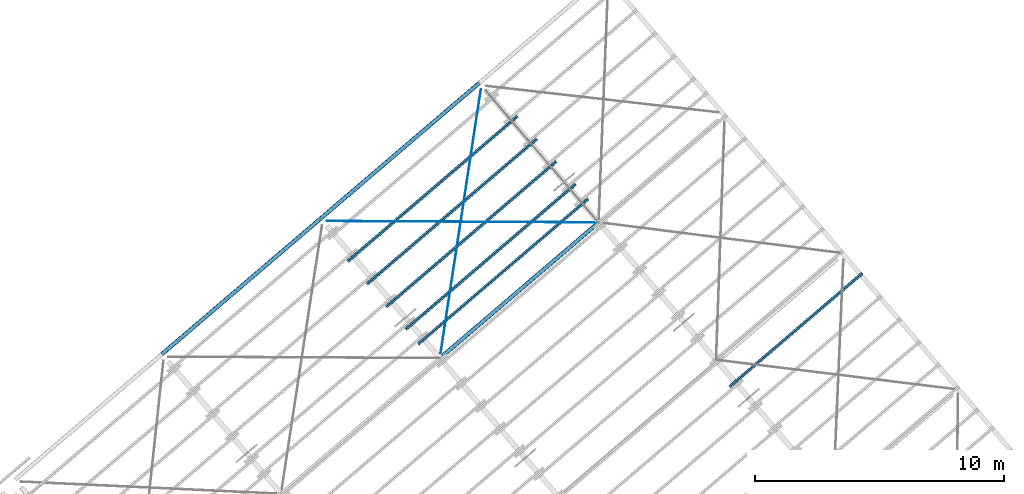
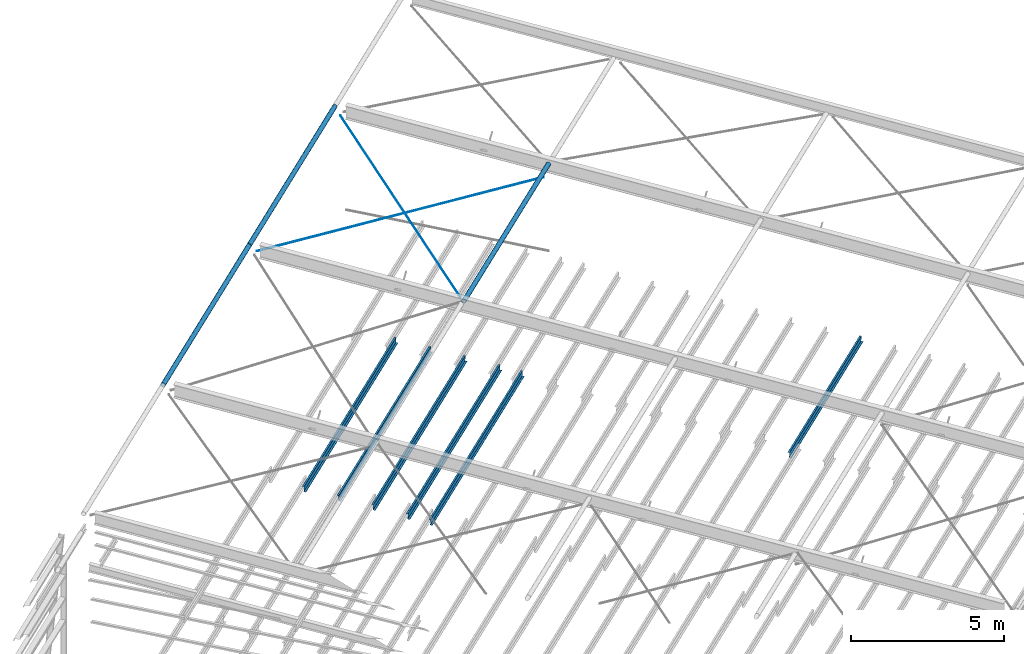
# One storey, part 18 of 25: 11 beams, 3 elements without a shape of their own.
"""IFC2X3 building model written with IfcOpenShell, lengths in millimetres."""

from ifc_helpers import new_model, entity, si_unit, converted_unit, derived_unit, direction, frame, frame_2d, origin, origin_2d_with_axis, place, context, subcontext, project, spatial, polyline, circle_curve, parameter, trimmed, segment, composite_curve, circle, hollow_circle, outline, extrude, material, type_object, element, aggregate, save


model = new_model("IFC2X3")

# Units and contexts
model_context = context("Model", 3, precision=0.01, world=origin(), true_north=direction((6.123031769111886e-17, 1.0)))
body_context = subcontext(model_context, "Body", "Model", "MODEL_VIEW")
ifc_project = project(units=[si_unit("LENGTHUNIT", "METRE", prefix="MILLI"), si_unit("AREAUNIT", "SQUARE_METRE"), si_unit("VOLUMEUNIT", "CUBIC_METRE"), converted_unit("PLANEANGLEUNIT", "DEGREE", entity("IfcRatioMeasure", 0.017453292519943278), si_unit("PLANEANGLEUNIT", "RADIAN"), dimensions=[0, 0, 0, 0, 0, 0, 0]), si_unit("MASSUNIT", "GRAM", prefix="KILO"), derived_unit("MASSDENSITYUNIT", [(si_unit("MASSUNIT", "GRAM", prefix="KILO"), 1), (si_unit("LENGTHUNIT", "METRE"), -3)]), derived_unit("MOMENTOFINERTIAUNIT", [(si_unit("LENGTHUNIT", "METRE"), 4)]), si_unit("TIMEUNIT", "SECOND"), si_unit("FREQUENCYUNIT", "HERTZ"), si_unit("THERMODYNAMICTEMPERATUREUNIT", "DEGREE_CELSIUS"), derived_unit("THERMALTRANSMITTANCEUNIT", [(si_unit("MASSUNIT", "GRAM", prefix="KILO"), 1), (si_unit("THERMODYNAMICTEMPERATUREUNIT", "KELVIN"), -1), (si_unit("TIMEUNIT", "SECOND"), -3)]), derived_unit("VOLUMETRICFLOWRATEUNIT", [(si_unit("LENGTHUNIT", "METRE"), 3), (si_unit("TIMEUNIT", "SECOND"), -1)]), derived_unit("MASSFLOWRATEUNIT", [(si_unit("MASSUNIT", "GRAM", prefix="KILO"), 1), (si_unit("TIMEUNIT", "SECOND"), -1)]), derived_unit("ROTATIONALFREQUENCYUNIT", [(si_unit("TIMEUNIT", "SECOND"), -1)]), si_unit("ELECTRICCURRENTUNIT", "AMPERE"), si_unit("ELECTRICVOLTAGEUNIT", "VOLT"), si_unit("POWERUNIT", "WATT"), si_unit("FORCEUNIT", "NEWTON", prefix="KILO"), si_unit("ILLUMINANCEUNIT", "LUX"), si_unit("LUMINOUSFLUXUNIT", "LUMEN"), si_unit("LUMINOUSINTENSITYUNIT", "CANDELA"), derived_unit("USERDEFINED", [(si_unit("MASSUNIT", "GRAM", prefix="KILO"), -1), (si_unit("LENGTHUNIT", "METRE"), -2), (si_unit("TIMEUNIT", "SECOND"), 3), (si_unit("LUMINOUSFLUXUNIT", "LUMEN"), 1)]), derived_unit("SOUNDPOWERUNIT", [(si_unit("MASSUNIT", "GRAM", prefix="KILO"), 1), (si_unit("LENGTHUNIT", "METRE"), 2), (si_unit("TIMEUNIT", "SECOND"), -3)]), derived_unit("LINEARVELOCITYUNIT", [(si_unit("LENGTHUNIT", "METRE"), 1), (si_unit("TIMEUNIT", "SECOND"), -1)]), si_unit("PRESSUREUNIT", "PASCAL"), derived_unit("USERDEFINED", [(si_unit("LENGTHUNIT", "METRE"), -2), (si_unit("MASSUNIT", "GRAM", prefix="KILO"), 1), (si_unit("TIMEUNIT", "SECOND"), -2)]), derived_unit("LINEARFORCEUNIT", [(si_unit("MASSUNIT", "GRAM", prefix="KILO"), 1), (si_unit("LENGTHUNIT", "METRE"), 1), (si_unit("TIMEUNIT", "SECOND"), -2), (si_unit("LENGTHUNIT", "METRE"), -1)]), derived_unit("PLANARFORCEUNIT", [(si_unit("MASSUNIT", "GRAM", prefix="KILO"), 1), (si_unit("LENGTHUNIT", "METRE"), 1), (si_unit("TIMEUNIT", "SECOND"), -2), (si_unit("LENGTHUNIT", "METRE"), -2)])], contexts=[model_context])

# Site, building, storey
site_placement = place(None, frame((962.4174930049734, -6014.433753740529, 0.0), z_axis=(0.0, 0.0, 1.0), x_axis=(0.7601792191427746, 0.649713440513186, 0.0)))
site = spatial("IfcSite", under=ifc_project, at=site_placement, Name="Default", CompositionType="ELEMENT")
building_placement = place(site_placement, origin())
building = spatial("IfcBuilding", under=site, at=building_placement, CompositionType="ELEMENT")
storey_placement = place(building_placement, frame((0.0, 0.0, 9200.0)))
storey = spatial("IfcBuildingStorey", under=building, at=storey_placement, Name="TOP OF CEILING", CompositionType="ELEMENT", Elevation=9200.000000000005)

# Beams
ifc_material_1 = material(Name="Metal - Steel - 300 MPa")
beam_type_1 = type_object("IfcBeamType", Name="ADSK_AU_CHS-Circular Hollow Sections (AS 1163_C350):168.3x6.4CHS", PredefinedType="NOTDEFINED")
beam_1_placement = place(storey_placement, frame((162338.96020471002, 3518.471917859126, 4100.295329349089)))
element("IfcBeam", 1, at=beam_1_placement, inside=storey, type_object=beam_type_1, material=ifc_material_1, Name="ADSK_AU_CHS-Circular Hollow Sections (AS 1163_C350):168.3x6.4CHS", ObjectType="ADSK_AU_CHS-Circular Hollow Sections (AS 1163_C350):168.3x6.4CHS", context=body_context, shape_type="SweptSolid", body=[
    extrude(hollow_circle(Radius=84.15000000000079, WallThickness=6.4000000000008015, at=origin_2d_with_axis()), frame((5.100000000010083, 0.0, -84.15000000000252), z_axis=(1.0, 0.0, 0.0), x_axis=(0.0, 1.0, 0.0)), (0.0, 0.0, 1.0), 8389.799999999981),
])
beam_2_placement = place(storey_placement, frame((170738.96020471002, 3518.4719178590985, 4100.295329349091)))
element("IfcBeam", 2, at=beam_2_placement, inside=storey, type_object=beam_type_1, material=ifc_material_1, Name="ADSK_AU_CHS-Circular Hollow Sections (AS 1163_C350):168.3x6.4CHS", ObjectType="ADSK_AU_CHS-Circular Hollow Sections (AS 1163_C350):168.3x6.4CHS", context=body_context, shape_type="SweptSolid", body=[
    extrude(hollow_circle(Radius=84.15000000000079, WallThickness=6.4000000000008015, at=origin_2d_with_axis()), frame((5.10000000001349, 0.0, -84.15000000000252), z_axis=(1.0, 0.0, 0.0), x_axis=(0.0, 1.0, 0.0)), (0.0, 0.0, 1.0), 8389.799999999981),
])
beam_3_placement = place(storey_placement, frame((179138.96020471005, -3867.590582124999, 3533.8115259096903), z_axis=(0.0, 0.0, 1.0), x_axis=(-1.0, 0.0, 0.0)))
element("IfcBeam", 3, at=beam_3_placement, inside=storey, type_object=beam_type_1, material=ifc_material_1, Name="ADSK_AU_CHS-Circular Hollow Sections (AS 1163_C350):168.3x6.4CHS", ObjectType="ADSK_AU_CHS-Circular Hollow Sections (AS 1163_C350):168.3x6.4CHS", context=body_context, shape_type="SweptSolid", body=[
    extrude(hollow_circle(Radius=84.15000000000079, WallThickness=6.4000000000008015, at=origin_2d_with_axis()), frame((0.0, 0.0, -84.15000000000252), z_axis=(1.0, 0.0, 0.0), x_axis=(0.0, 1.0, 0.0)), (0.0, 0.0, 1.0), 8270.5),
])
beam_type_2 = type_object("IfcBeamType", Name="ADSK_AU_Round Bars (AS 3679_1):24ROD", PredefinedType="NOTDEFINED")
beam_4_placement = place(storey_placement, frame((170738.96020471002, 3384.0219178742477, 3800.0), z_axis=(0.055353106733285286, -0.04778562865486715, 0.9973226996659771), x_axis=(0.7549271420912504, -0.6517189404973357, -0.07312614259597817)))
element("IfcBeam", 4, at=beam_4_placement, inside=storey, type_object=beam_type_2, Name="ADSK_AU_Round Bars (AS 3679_1):24ROD", ObjectType="ADSK_AU_Round Bars (AS 3679_1):24ROD", context=body_context, shape_type="SweptSolid", body=[
    extrude(circle(Radius=12.000000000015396, at=frame_2d((-8.196803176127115e-13, -2.154761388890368e-11), x_axis=(1.0, 0.0))), frame((163.29999999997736, 0.0, -12.0), z_axis=(1.0, 0.0, 0.0), x_axis=(0.0, -1.0, 0.0)), (0.0, 0.0, 1.0), 10776.70000000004),
])
beam_5_placement = place(storey_placement, frame((179138.96020471, 3384.021917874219, 3800.0), z_axis=(-0.014744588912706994, -0.012728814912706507, 0.9998102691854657), x_axis=(-0.756810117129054, -0.6533444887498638, -0.01947885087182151)))
element("IfcBeam", 5, at=beam_5_placement, inside=storey, type_object=beam_type_2, Name="ADSK_AU_Round Bars (AS 3679_1):24ROD", ObjectType="ADSK_AU_Round Bars (AS 3679_1):24ROD", context=body_context, shape_type="SweptSolid", body=[
    extrude(circle(Radius=12.00000000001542, at=frame_2d((-2.049200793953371e-12, -1.5191722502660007e-11), x_axis=(1.0, 0.0))), frame((161.60868643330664, 0.0, -12.0), z_axis=(1.0, 0.0, 0.0), x_axis=(0.0, -1.0, 0.0)), (0.0, 0.0, 1.0), 10737.037508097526),
])

# Assembly, beam
assembly_1_placement = place(storey_placement, origin())
assembly_1 = element("IfcElementAssembly", 6, at=assembly_1_placement, inside=storey, Name="Structural Beam System:Structural Beam System 1", ObjectType="Structural Beam System:Structural Beam System 1", AssemblyPlace="NOTDEFINED", PredefinedType="BEAM_GRID")
ifc_material_2 = material(Name="Metal - Steel - 345 MPa")
beam_type_3 = type_object("IfcBeamType", Name="ADSK_AU_Light Gauge-Zeds:Z20015", PredefinedType="NOTDEFINED")
beam_6_placement = place(building_placement, frame((179438.96020471, -2869.548635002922, 3989.3500014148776), z_axis=(0.0, 0.0, 1.0), x_axis=(-1.0, 0.0, 0.0)))
beam_6 = element("IfcBeam", 7, at=beam_6_placement, type_object=beam_type_3, material=ifc_material_2, Name="ADSK_AU_Light Gauge-Zeds:Z20015", ObjectType="ADSK_AU_Light Gauge-Zeds:Z20015", context=body_context, shape_type="SweptSolid", body=[
    extrude(outline(composite_curve([segment(polyline([(100.0, 1.0), (100.0, -69.0)]), True, "CONTINUOUS"), segment(trimmed(circle_curve(frame_2d((98.0, -69.0), x_axis=(0.0, -1.0)), 2.000000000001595), [parameter(0.0)], [parameter(89.99999999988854)], True, "PARAMETER"), False, "CONTINUOUS"), segment(polyline([(98.0, -71.0), (81.49999999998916, -71.0)]), True, "CONTINUOUS"), segment(polyline([(81.49999999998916, -71.0), (81.49999999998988, -72.50000000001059)]), True, "CONTINUOUS"), segment(polyline([(81.49999999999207, -72.50000000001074), (98.0, -72.50000000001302)]), True, "CONTINUOUS"), segment(trimmed(circle_curve(frame_2d((98.0, -69.0), x_axis=(1.0, 0.0)), 3.500000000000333), [parameter(270.0000000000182)], [parameter(0.0)], True, "PARAMETER"), True, "CONTINUOUS"), segment(polyline([(101.49999999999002, -69.0), (101.50000000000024, 1.0)]), True, "CONTINUOUS"), segment(trimmed(circle_curve(frame_2d((98.0, 1.0), x_axis=(0.0, 1.0)), 3.500000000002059), [parameter(270.0000000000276)], [parameter(0.0)], True, "PARAMETER"), True, "CONTINUOUS"), segment(polyline([(98.0, 4.499999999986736), (-98.0, 4.500000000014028)]), True, "CONTINUOUS"), segment(trimmed(circle_curve(frame_2d((-98.0, 6.500000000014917), x_axis=(-1.0, 0.0)), 2.0000000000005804), [parameter(0.0)], [parameter(89.99999999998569)], True, "PARAMETER"), False, "CONTINUOUS"), segment(polyline([(-100.0, 6.500000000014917), (-100.0, 64.0)]), True, "CONTINUOUS"), segment(trimmed(circle_curve(frame_2d((-98.0, 64.0), x_axis=(0.0, 1.0)), 2.000000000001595), [parameter(0.0)], [parameter(89.99999999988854)], True, "PARAMETER"), False, "CONTINUOUS"), segment(polyline([(-98.0, 66.0), (-81.49999999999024, 66.0)]), True, "CONTINUOUS"), segment(polyline([(-81.49999999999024, 66.0), (-81.49999999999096, 67.50000000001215)]), True, "CONTINUOUS"), segment(polyline([(-81.49999999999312, 67.5000000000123), (-98.0, 67.50000000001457)]), True, "CONTINUOUS"), segment(trimmed(circle_curve(frame_2d((-98.0, 64.0), x_axis=(-1.0, 0.0)), 3.5000000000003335), [parameter(270.0000000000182)], [parameter(0.0)], True, "PARAMETER"), True, "CONTINUOUS"), segment(polyline([(-101.49999999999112, 64.0), (-101.49999999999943, 6.500000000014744)]), True, "CONTINUOUS"), segment(trimmed(circle_curve(frame_2d((-98.0, 6.500000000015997), x_axis=(0.0, -1.0)), 3.5000000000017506), [parameter(270.0000000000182)], [parameter(0.0)], True, "PARAMETER"), True, "CONTINUOUS"), segment(polyline([(-98.0, 3.0), (98.0, 3.0)]), True, "CONTINUOUS"), segment(trimmed(circle_curve(frame_2d((98.0, 1.0), x_axis=(1.0, 0.0)), 2.0000000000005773), [parameter(0.0)], [parameter(89.99999999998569)], True, "PARAMETER"), False, "CONTINUOUS")], self_intersect=False)), frame((0.0, -2.591243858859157, -101.56665523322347), z_axis=(-1.0, 0.0, 0.0), x_axis=(0.0, -0.06975647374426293, -0.9975640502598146)), (0.0, 0.0, -1.0), 9000.000000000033),
])
aggregate(assembly_1, [beam_6])

# Assembly, beams
assembly_2_placement = place(storey_placement, origin())
assembly_2 = element("IfcElementAssembly", 8, at=assembly_2_placement, inside=storey, Name="Structural Beam System:Structural Beam System 1", ObjectType="Structural Beam System:Structural Beam System 1", AssemblyPlace="NOTDEFINED", PredefinedType="BEAM_GRID")
ifc_material_3 = material(Name="Metal - Light Gauge")
beam_type_4 = type_object("IfcBeamType", Name="ADSK_AU_Light Gauge-Zeds:Z20024", PredefinedType="NOTDEFINED")
beam_7_placement = place(building_placement, frame((179438.96020471, 1503.1321958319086, 4295.117631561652), z_axis=(0.0, 0.0, 1.0), x_axis=(-1.0, 0.0, 0.0)))
beam_7 = element("IfcBeam", 9, at=beam_7_placement, type_object=beam_type_4, material=ifc_material_3, Name="ADSK_AU_Light Gauge-Zeds:Z20024", ObjectType="ADSK_AU_Light Gauge-Zeds:Z20024", context=body_context, shape_type="SweptSolid", body=[
    extrude(outline(composite_curve([segment(polyline([(99.10000000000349, 1.029999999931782), (99.09999999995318, -71.67000000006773)]), True, "CONTINUOUS"), segment(trimmed(circle_curve(frame_2d((97.09999999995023, -71.67000000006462), x_axis=(0.0, -1.0)), 2.0000000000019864), [parameter(0.0)], [parameter(89.99999999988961)], True, "PARAMETER"), False, "CONTINUOUS"), segment(polyline([(97.09999999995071, -73.67000000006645), (79.49999999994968, -73.6700000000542)]), True, "CONTINUOUS"), segment(polyline([(79.49999999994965, -73.67000000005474), (79.49999999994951, -76.07000000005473)]), True, "CONTINUOUS"), segment(polyline([(79.49999999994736, -76.0700000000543), (97.09999999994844, -76.07000000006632)]), True, "CONTINUOUS"), segment(trimmed(circle_curve(frame_2d((97.09999999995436, -71.67000000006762), x_axis=(1.0, 0.0)), 4.399999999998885), [parameter(269.9999999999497)], [parameter(0.0)], True, "PARAMETER"), True, "CONTINUOUS"), segment(polyline([(101.49999999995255, -71.67000000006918), (101.50000000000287, 1.0299999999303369)]), True, "CONTINUOUS"), segment(trimmed(circle_curve(frame_2d((97.09999999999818, 1.0299999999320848), x_axis=(0.0, 1.0)), 4.400000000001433), [parameter(270.0000000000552)], [parameter(0.0)], True, "PARAMETER"), True, "CONTINUOUS"), segment(polyline([(97.10000000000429, 5.429999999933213), (-97.0999999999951, 5.430000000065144)]), True, "CONTINUOUS"), segment(trimmed(circle_curve(frame_2d((-97.09999999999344, 7.430000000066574), x_axis=(-1.0, 0.0)), 2.0000000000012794), [parameter(0.0)], [parameter(89.9999999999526)], True, "PARAMETER"), False, "CONTINUOUS"), segment(polyline([(-99.09999999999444, 7.430000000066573), (-99.09999999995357, 66.03000000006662)]), True, "CONTINUOUS"), segment(trimmed(circle_curve(frame_2d((-97.09999999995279, 66.03000000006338), x_axis=(0.0, 1.0)), 2.0000000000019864), [parameter(0.0)], [parameter(89.99999999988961)], True, "PARAMETER"), False, "CONTINUOUS"), segment(polyline([(-97.09999999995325, 68.03000000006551), (-79.49999999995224, 68.03000000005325)]), True, "CONTINUOUS"), segment(polyline([(-79.49999999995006, 68.03000000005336), (-79.49999999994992, 70.43000000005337)]), True, "CONTINUOUS"), segment(polyline([(-79.49999999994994, 70.4300000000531), (-97.09999999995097, 70.43000000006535)]), True, "CONTINUOUS"), segment(trimmed(circle_curve(frame_2d((-97.09999999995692, 66.03000000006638), x_axis=(-1.0, 0.0)), 4.399999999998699), [parameter(269.9999999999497)], [parameter(0.0)], True, "PARAMETER"), True, "CONTINUOUS"), segment(polyline([(-101.49999999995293, 66.03000000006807), (-101.49999999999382, 7.43000000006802)]), True, "CONTINUOUS"), segment(trimmed(circle_curve(frame_2d((-97.09999999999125, 7.430000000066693), x_axis=(0.0, -1.0)), 4.400000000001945), [parameter(270.0000000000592)], [parameter(0.0)], True, "PARAMETER"), True, "CONTINUOUS"), segment(polyline([(-97.0999999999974, 3.0300000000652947), (97.100000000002, 3.029999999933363)]), True, "CONTINUOUS"), segment(trimmed(circle_curve(frame_2d((97.10000000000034, 1.0299999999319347), x_axis=(1.0, 0.0)), 2.0000000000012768), [parameter(0.0)], [parameter(89.9999999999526)], True, "PARAMETER"), False, "CONTINUOUS")], self_intersect=False)), frame((0.0, -1.6635092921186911, -101.63152875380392), z_axis=(-1.0, 0.0, 0.0), x_axis=(0.0, -0.06975647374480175, -0.997564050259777)), (0.0, 0.0, -1.0), 9000.000000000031),
])
beam_8_placement = place(building_placement, frame((179438.96020471, 306.0553355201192, 4211.4098630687), z_axis=(0.0, 0.0, 1.0), x_axis=(-1.0, 0.0, 0.0)))
beam_8 = element("IfcBeam", 10, at=beam_8_placement, type_object=beam_type_4, material=ifc_material_3, Name="ADSK_AU_Light Gauge-Zeds:Z20024", ObjectType="ADSK_AU_Light Gauge-Zeds:Z20024", context=body_context, shape_type="SweptSolid", body=[
    extrude(outline(composite_curve([segment(polyline([(99.10000000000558, 1.0299999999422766), (99.09999999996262, -71.67000000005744)]), True, "CONTINUOUS"), segment(trimmed(circle_curve(frame_2d((97.09999999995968, -71.67000000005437), x_axis=(0.0, -1.0)), 2.000000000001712), [parameter(0.0)], [parameter(89.99999999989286)], True, "PARAMETER"), False, "CONTINUOUS"), segment(polyline([(97.09999999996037, -73.67000000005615), (79.49999999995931, -73.67000000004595)]), True, "CONTINUOUS"), segment(polyline([(79.49999999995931, -73.67000000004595), (79.49999999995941, -76.07000000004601)]), True, "CONTINUOUS"), segment(polyline([(79.49999999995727, -76.07000000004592), (97.09999999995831, -76.07000000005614)]), True, "CONTINUOUS"), segment(trimmed(circle_curve(frame_2d((97.09999999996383, -71.67000000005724), x_axis=(1.0, 0.0)), 4.399999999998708), [parameter(269.999999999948)], [parameter(0.0)], True, "PARAMETER"), True, "CONTINUOUS"), segment(polyline([(101.49999999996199, -71.67000000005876), (101.50000000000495, 1.029999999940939)]), True, "CONTINUOUS"), segment(trimmed(circle_curve(frame_2d((97.10000000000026, 1.029999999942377), x_axis=(0.0, 1.0)), 4.4000000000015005), [parameter(270.000000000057)], [parameter(0.0)], True, "PARAMETER"), True, "CONTINUOUS"), segment(polyline([(97.10000000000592, 5.429999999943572), (-97.09999999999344, 5.430000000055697)]), True, "CONTINUOUS"), segment(trimmed(circle_curve(frame_2d((-97.09999999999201, 7.430000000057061), x_axis=(-1.0, 0.0)), 2.000000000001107), [parameter(0.0)], [parameter(89.99999999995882)], True, "PARAMETER"), False, "CONTINUOUS"), segment(polyline([(-99.09999999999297, 7.43000000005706), (-99.09999999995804, 66.0300000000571)]), True, "CONTINUOUS"), segment(trimmed(circle_curve(frame_2d((-97.09999999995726, 66.03000000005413), x_axis=(0.0, 1.0)), 2.0000000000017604), [parameter(0.0)], [parameter(89.99999999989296)], True, "PARAMETER"), False, "CONTINUOUS"), segment(polyline([(-97.09999999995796, 68.03000000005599), (-79.4999999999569, 68.03000000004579)]), True, "CONTINUOUS"), segment(polyline([(-79.49999999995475, 68.03000000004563), (-79.49999999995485, 70.43000000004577)]), True, "CONTINUOUS"), segment(polyline([(-79.49999999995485, 70.43000000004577), (-97.0999999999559, 70.43000000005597)]), True, "CONTINUOUS"), segment(trimmed(circle_curve(frame_2d((-97.0999999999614, 66.030000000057), x_axis=(-1.0, 0.0)), 4.399999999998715), [parameter(269.99999999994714)], [parameter(0.0)], True, "PARAMETER"), True, "CONTINUOUS"), segment(polyline([(-101.4999999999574, 66.03000000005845), (-101.49999999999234, 7.430000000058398)]), True, "CONTINUOUS"), segment(trimmed(circle_curve(frame_2d((-97.09999999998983, 7.430000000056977), x_axis=(0.0, -1.0)), 4.400000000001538), [parameter(270.00000000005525)], [parameter(0.0)], True, "PARAMETER"), True, "CONTINUOUS"), segment(polyline([(-97.09999999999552, 3.030000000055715), (97.10000000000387, 3.029999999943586)]), True, "CONTINUOUS"), segment(trimmed(circle_curve(frame_2d((97.10000000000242, 1.0299999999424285), x_axis=(1.0, 0.0)), 2.0000000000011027), [parameter(0.0)], [parameter(89.99999999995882)], True, "PARAMETER"), False, "CONTINUOUS")], self_intersect=False)), frame((0.0, -1.6635092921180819, -101.63152875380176), z_axis=(-1.0, 0.0, 0.0), x_axis=(0.0, -0.0697564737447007, -0.997564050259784)), (0.0, 0.0, -1.0), 9000.000000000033),
])
beam_9_placement = place(building_placement, frame((179438.96020471, -891.0215247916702, 4127.702094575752), z_axis=(0.0, 0.0, 1.0), x_axis=(-1.0, 0.0, 0.0)))
beam_9 = element("IfcBeam", 11, at=beam_9_placement, type_object=beam_type_4, material=ifc_material_3, Name="ADSK_AU_Light Gauge-Zeds:Z20024", ObjectType="ADSK_AU_Light Gauge-Zeds:Z20024", context=body_context, shape_type="SweptSolid", body=[
    extrude(outline(composite_curve([segment(polyline([(99.10000000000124, 1.029999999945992), (99.09999999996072, -71.67000000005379)]), True, "CONTINUOUS"), segment(trimmed(circle_curve(frame_2d((97.09999999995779, -71.67000000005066), x_axis=(0.0, -1.0)), 2.0000000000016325), [parameter(0.0)], [parameter(89.99999999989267)], True, "PARAMETER"), False, "CONTINUOUS"), segment(polyline([(97.09999999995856, -73.67000000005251), (79.49999999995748, -73.6700000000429)]), True, "CONTINUOUS"), segment(polyline([(79.49999999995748, -73.6700000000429), (79.49999999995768, -76.07000000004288)]), True, "CONTINUOUS"), segment(polyline([(79.49999999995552, -76.07000000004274), (97.09999999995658, -76.07000000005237)]), True, "CONTINUOUS"), segment(trimmed(circle_curve(frame_2d((97.09999999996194, -71.67000000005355), x_axis=(1.0, 0.0)), 4.399999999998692), [parameter(269.99999999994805)], [parameter(0.0)], True, "PARAMETER"), True, "CONTINUOUS"), segment(polyline([(101.49999999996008, -71.67000000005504), (101.5000000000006, 1.0299999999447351)]), True, "CONTINUOUS"), segment(trimmed(circle_curve(frame_2d((97.09999999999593, 1.0299999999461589), x_axis=(0.0, 1.0)), 4.400000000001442), [parameter(270.00000000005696)], [parameter(0.0)], True, "PARAMETER"), True, "CONTINUOUS"), segment(polyline([(97.10000000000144, 5.429999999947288), (-97.09999999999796, 5.430000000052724)]), True, "CONTINUOUS"), segment(trimmed(circle_curve(frame_2d((-97.0999999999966, 7.430000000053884), x_axis=(-1.0, 0.0)), 2.0000000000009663), [parameter(0.0)], [parameter(89.99999999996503)], True, "PARAMETER"), False, "CONTINUOUS"), segment(polyline([(-99.09999999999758, 7.430000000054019), (-99.09999999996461, 66.03000000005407)]), True, "CONTINUOUS"), segment(trimmed(circle_curve(frame_2d((-97.09999999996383, 66.03000000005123), x_axis=(0.0, 1.0)), 2.0000000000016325), [parameter(0.0)], [parameter(89.99999999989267)], True, "PARAMETER"), False, "CONTINUOUS"), segment(polyline([(-97.09999999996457, 68.03000000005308), (-79.49999999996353, 68.03000000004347)]), True, "CONTINUOUS"), segment(polyline([(-79.49999999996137, 68.03000000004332), (-79.49999999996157, 70.43000000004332)]), True, "CONTINUOUS"), segment(polyline([(-79.49999999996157, 70.43000000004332), (-97.0999999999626, 70.43000000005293)]), True, "CONTINUOUS"), segment(trimmed(circle_curve(frame_2d((-97.09999999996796, 66.0300000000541), x_axis=(-1.0, 0.0)), 4.3999999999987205), [parameter(269.99999999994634)], [parameter(0.0)], True, "PARAMETER"), True, "CONTINUOUS"), segment(polyline([(-101.49999999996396, 66.03000000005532), (-101.49999999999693, 7.430000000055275)]), True, "CONTINUOUS"), segment(trimmed(circle_curve(frame_2d((-97.09999999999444, 7.430000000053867), x_axis=(0.0, -1.0)), 4.400000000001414), [parameter(270.00000000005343)], [parameter(0.0)], True, "PARAMETER"), True, "CONTINUOUS"), segment(polyline([(-97.09999999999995, 3.0300000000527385), (97.09999999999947, 3.029999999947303)]), True, "CONTINUOUS"), segment(trimmed(circle_curve(frame_2d((97.09999999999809, 1.0299999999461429), x_axis=(1.0, 0.0)), 2.000000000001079), [parameter(0.0)], [parameter(89.99999999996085)], True, "PARAMETER"), False, "CONTINUOUS")], self_intersect=False)), frame((0.0, -1.6635092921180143, -101.6315287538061), z_axis=(-1.0, 0.0, 0.0), x_axis=(0.0, -0.06975647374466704, -0.9975640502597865)), (0.0, 0.0, -1.0), 9000.000000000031),
])
beam_10_placement = place(building_placement, frame((179438.96020471, -2088.0983851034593, 4043.994326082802), z_axis=(0.0, 0.0, 1.0), x_axis=(-1.0, 0.0, 0.0)))
beam_10 = element("IfcBeam", 12, at=beam_10_placement, type_object=beam_type_4, material=ifc_material_3, Name="ADSK_AU_Light Gauge-Zeds:Z20024", ObjectType="ADSK_AU_Light Gauge-Zeds:Z20024", context=body_context, shape_type="SweptSolid", body=[
    extrude(outline(composite_curve([segment(polyline([(99.10000000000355, 1.0299999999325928), (99.09999999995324, -71.67000000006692)]), True, "CONTINUOUS"), segment(trimmed(circle_curve(frame_2d((97.09999999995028, -71.6700000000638), x_axis=(0.0, -1.0)), 2.0000000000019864), [parameter(0.0)], [parameter(89.99999999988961)], True, "PARAMETER"), False, "CONTINUOUS"), segment(polyline([(97.09999999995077, -73.67000000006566), (79.49999999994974, -73.67000000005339)]), True, "CONTINUOUS"), segment(polyline([(79.49999999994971, -73.67000000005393), (79.49999999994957, -76.07000000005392)]), True, "CONTINUOUS"), segment(polyline([(79.49999999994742, -76.07000000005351), (97.0999999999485, -76.0700000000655)]), True, "CONTINUOUS"), segment(trimmed(circle_curve(frame_2d((97.09999999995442, -71.6700000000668), x_axis=(1.0, 0.0)), 4.399999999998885), [parameter(269.9999999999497)], [parameter(0.0)], True, "PARAMETER"), True, "CONTINUOUS"), segment(polyline([(101.4999999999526, -71.67000000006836), (101.50000000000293, 1.0299999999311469)]), True, "CONTINUOUS"), segment(trimmed(circle_curve(frame_2d((97.09999999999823, 1.0299999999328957), x_axis=(0.0, 1.0)), 4.400000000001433), [parameter(270.0000000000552)], [parameter(0.0)], True, "PARAMETER"), True, "CONTINUOUS"), segment(polyline([(97.10000000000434, 5.429999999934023), (-97.09999999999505, 5.430000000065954)]), True, "CONTINUOUS"), segment(trimmed(circle_curve(frame_2d((-97.09999999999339, 7.430000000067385), x_axis=(-1.0, 0.0)), 2.0000000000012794), [parameter(0.0)], [parameter(89.9999999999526)], True, "PARAMETER"), False, "CONTINUOUS"), segment(polyline([(-99.09999999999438, 7.430000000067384), (-99.09999999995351, 66.03000000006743)]), True, "CONTINUOUS"), segment(trimmed(circle_curve(frame_2d((-97.09999999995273, 66.03000000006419), x_axis=(0.0, 1.0)), 2.0000000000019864), [parameter(0.0)], [parameter(89.99999999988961)], True, "PARAMETER"), False, "CONTINUOUS"), segment(polyline([(-97.0999999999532, 68.03000000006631), (-79.49999999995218, 68.03000000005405)]), True, "CONTINUOUS"), segment(polyline([(-79.49999999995, 68.03000000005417), (-79.49999999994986, 70.43000000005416)]), True, "CONTINUOUS"), segment(polyline([(-79.49999999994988, 70.4300000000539), (-97.09999999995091, 70.43000000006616)]), True, "CONTINUOUS"), segment(trimmed(circle_curve(frame_2d((-97.09999999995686, 66.03000000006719), x_axis=(-1.0, 0.0)), 4.399999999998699), [parameter(269.9999999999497)], [parameter(0.0)], True, "PARAMETER"), True, "CONTINUOUS"), segment(polyline([(-101.49999999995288, 66.03000000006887), (-101.49999999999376, 7.43000000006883)]), True, "CONTINUOUS"), segment(trimmed(circle_curve(frame_2d((-97.0999999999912, 7.430000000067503), x_axis=(0.0, -1.0)), 4.400000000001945), [parameter(270.0000000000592)], [parameter(0.0)], True, "PARAMETER"), True, "CONTINUOUS"), segment(polyline([(-97.09999999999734, 3.030000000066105), (97.10000000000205, 3.029999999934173)]), True, "CONTINUOUS"), segment(trimmed(circle_curve(frame_2d((97.10000000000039, 1.0299999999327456), x_axis=(1.0, 0.0)), 2.0000000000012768), [parameter(0.0)], [parameter(89.9999999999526)], True, "PARAMETER"), False, "CONTINUOUS")], self_intersect=False)), frame((0.0, -1.663509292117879, -101.63152875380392), z_axis=(-1.0, 0.0, 0.0), x_axis=(0.0, -0.06975647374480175, -0.997564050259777)), (0.0, 0.0, -1.0), 9000.000000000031),
])
aggregate(assembly_2, [beam_7, beam_8, beam_9, beam_10])

# Assembly, beam
assembly_3_placement = place(storey_placement, origin())
assembly_3 = element("IfcElementAssembly", 13, at=assembly_3_placement, inside=storey, Name="Structural Beam System:Structural Beam System 1", ObjectType="Structural Beam System:Structural Beam System 1", AssemblyPlace="NOTDEFINED", PredefinedType="BEAM_GRID")
beam_type_5 = type_object("IfcBeamType", Name="ADSK_AU_Light Gauge-Zeds:Z20019", PredefinedType="NOTDEFINED")
beam_11_placement = place(building_placement, frame((185873.56020470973, -12308.002838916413, 3329.3489892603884), z_axis=(0.0, 0.0, 1.0), x_axis=(-1.0, 0.0, 0.0)))
beam_11 = element("IfcBeam", 14, at=beam_11_placement, type_object=beam_type_5, material=ifc_material_3, Name="ADSK_AU_Light Gauge-Zeds:Z20019", ObjectType="ADSK_AU_Light Gauge-Zeds:Z20019", context=body_context, shape_type="SweptSolid", body=[
    extrude(outline(composite_curve([segment(polyline([(99.65000000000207, 1.2799999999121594), (99.64999999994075, -70.4200000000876)]), True, "CONTINUOUS"), segment(trimmed(circle_curve(frame_2d((97.64999999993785, -70.42000000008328), x_axis=(0.0, -1.0)), 2.0000000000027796), [parameter(0.0)], [parameter(89.99999999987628)], True, "PARAMETER"), False, "CONTINUOUS"), segment(polyline([(97.64999999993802, -72.42000000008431), (80.0499999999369, -72.4200000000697)]), True, "CONTINUOUS"), segment(polyline([(80.04999999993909, -72.42000000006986), (80.04999999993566, -74.32000000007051)]), True, "CONTINUOUS"), segment(polyline([(80.04999999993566, -74.32000000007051), (97.64999999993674, -74.3200000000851)]), True, "CONTINUOUS"), segment(trimmed(circle_curve(frame_2d((97.64999999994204, -70.42000000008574), x_axis=(1.0, 0.0)), 3.8999999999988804), [parameter(269.99999999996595)], [parameter(0.0)], True, "PARAMETER"), True, "CONTINUOUS"), segment(polyline([(101.54999999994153, -70.42000000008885), (101.55000000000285, 1.2799999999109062)]), True, "CONTINUOUS"), segment(trimmed(circle_curve(frame_2d((97.6500000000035, 1.2799999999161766), x_axis=(0.0, 1.0)), 3.899999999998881), [parameter(269.99999999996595)], [parameter(0.0)], True, "PARAMETER"), True, "CONTINUOUS"), segment(polyline([(97.65000000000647, 5.179999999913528), (-97.54999999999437, 5.1800000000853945)]), True, "CONTINUOUS"), segment(trimmed(circle_curve(frame_2d((-97.54999999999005, 7.1800000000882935), x_axis=(-1.0, 0.0)), 2.0000000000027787), [parameter(0.0)], [parameter(89.99999999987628)], True, "PARAMETER"), False, "CONTINUOUS"), segment(polyline([(-99.54999999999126, 7.1800000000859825), (-99.54999999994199, 64.7800000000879)]), True, "CONTINUOUS"), segment(trimmed(circle_curve(frame_2d((-97.54999999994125, 64.78000000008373), x_axis=(0.0, 1.0)), 2.000000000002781), [parameter(0.0)], [parameter(89.99999999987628)], True, "PARAMETER"), False, "CONTINUOUS"), segment(polyline([(-97.54999999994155, 66.78000000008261), (-80.44999999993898, 66.78000000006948)]), True, "CONTINUOUS"), segment(polyline([(-80.44999999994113, 66.78000000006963), (-80.44999999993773, 68.68000000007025)]), True, "CONTINUOUS"), segment(polyline([(-80.44999999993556, 68.68000000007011), (-97.54999999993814, 68.68000000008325)]), True, "CONTINUOUS"), segment(trimmed(circle_curve(frame_2d((-97.54999999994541, 64.78000000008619), x_axis=(-1.0, 0.0)), 3.8999999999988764), [parameter(269.99999999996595)], [parameter(0.0)], True, "PARAMETER"), True, "CONTINUOUS"), segment(polyline([(-101.44999999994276, 64.78000000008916), (-101.44999999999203, 7.180000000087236)]), True, "CONTINUOUS"), segment(trimmed(circle_curve(frame_2d((-97.54999999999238, 7.180000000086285), x_axis=(0.0, -1.0)), 3.8999999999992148), [parameter(269.9999999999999)], [parameter(0.0)], True, "PARAMETER"), True, "CONTINUOUS"), segment(polyline([(-97.54999999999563, 3.2800000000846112), (97.65000000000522, 3.2799999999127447)]), True, "CONTINUOUS"), segment(trimmed(circle_curve(frame_2d((97.65000000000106, 1.2799999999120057), x_axis=(1.0, 0.0)), 2.000000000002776), [parameter(0.0)], [parameter(89.99999999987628)], True, "PARAMETER"), False, "CONTINUOUS")], self_intersect=False)), frame((0.0, -1.9094124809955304, -101.56421143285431), z_axis=(-1.0, 0.0, 0.0), x_axis=(0.0, -0.06975647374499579, -0.9975640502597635)), (0.0, 0.0, -1.0), 7035.00000000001),
])
aggregate(assembly_3, [beam_11])

save(model, "model.ifc")
